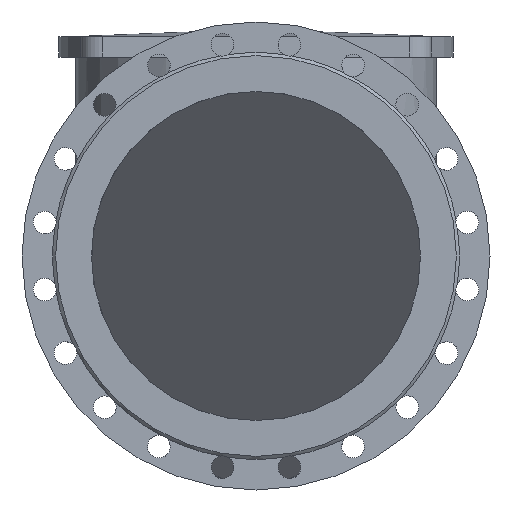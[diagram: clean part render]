
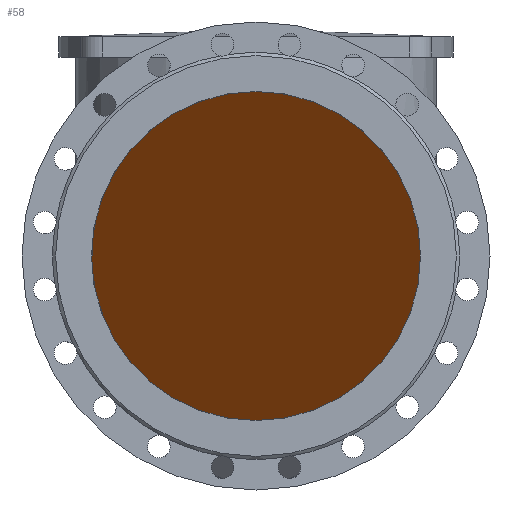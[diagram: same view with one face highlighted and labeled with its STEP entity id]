
A CAD part, front view. The second image highlights one B-rep face of the part: STEP entity #58.
In plain terms, the highlighted planar face has unit normal (0, -0.707, -0.707).
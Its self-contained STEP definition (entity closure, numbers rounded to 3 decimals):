
#58=ADVANCED_FACE('',(#878),#880,.T.);
#878=FACE_BOUND('',#879,.T.);
#879=EDGE_LOOP('',(#2905));
#880=PLANE('',#881);
#881=AXIS2_PLACEMENT_3D('',#882,#883,#884);
#882=CARTESIAN_POINT('',(-320.,-247.939,247.939));
#883=DIRECTION('',(0.,-0.707,-0.707));
#884=DIRECTION('',(0.,0.707,-0.707));
#2905=ORIENTED_EDGE('',*,*,#3510,.T.);
#3510=EDGE_CURVE('',#3809,#3809,#3810,.F.);
#3809=VERTEX_POINT('',#4332);
#3810=(BOUNDED_CURVE()B_SPLINE_CURVE(3,
(#4333,#4334,#4335,#4336,#4337,#4338,#4339),
.UNSPECIFIED.,.T.,.F.)B_SPLINE_CURVE_WITH_KNOTS((4,3,4),
(0.,0.5,1.),
.UNSPECIFIED.)CURVE()GEOMETRIC_REPRESENTATION_ITEM()RATIONAL_B_SPLINE_CURVE((1.,
0.333,0.333,1.,0.333,0.333,1.))
REPRESENTATION_ITEM(''));
#4332=CARTESIAN_POINT('',(0.,-225.,225.));
#4333=CARTESIAN_POINT('',(0.,-225.,225.));
#4334=CARTESIAN_POINT('',(450.,-225.,225.));
#4335=CARTESIAN_POINT('',(450.,225.,-225.));
#4336=CARTESIAN_POINT('',(0.,225.,-225.));
#4337=CARTESIAN_POINT('',(-450.,225.,-225.));
#4338=CARTESIAN_POINT('',(-450.,-225.,225.));
#4339=CARTESIAN_POINT('',(0.,-225.,225.));
